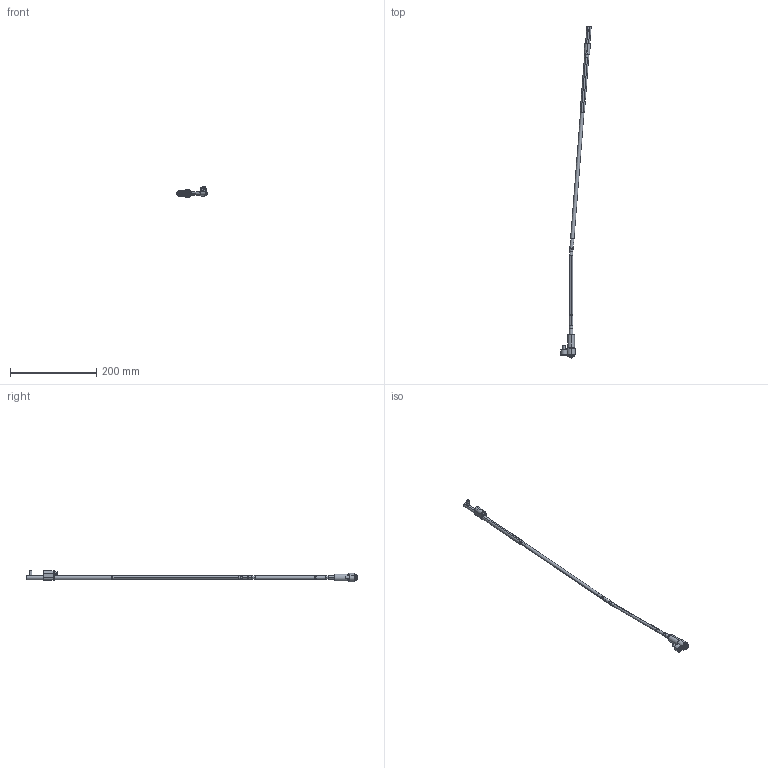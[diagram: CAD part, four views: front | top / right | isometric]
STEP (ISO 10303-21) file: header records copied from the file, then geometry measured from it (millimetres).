
FILE_DESCRIPTION (( 'STEP AP214' ), '1' );
FILE_NAME ('WL080125-INJ 4,5°.STEP', '2021-03-19T15:31:19', ( '' ), ( '' ), 'SwSTEP 2.0', 'SolidWorks 2019', '' );
FILE_SCHEMA (( 'AUTOMOTIVE_DESIGN' ));
Length unit declared in the file: millimetre
Products named in the file (17): WL080100-D; WL080125-INJ 4,5°; 1DIN912545_DIN 912 M5 x 50 --- 50C; WL080100-E; 1DIN912616_DIN 912 M6 x 16 --- 16C; Web-WL08-F01; Web-WL08-F00.SLDPRT; WL080100-B_WL0800FF; WL080100-C; Web-WL08XX-A7_OFF-WL080125-4,5; Web-WL08-A2; WL080100-B1_WL0800FF-1; Web-WL08-A3; Web-WP08-1; 3IMAN4X2-150_con sello; 9DR2206-TOR; Web-WL08-A1
Assembly tree (16 placements, depth 3):
  WL080125-INJ 4,5°
    Web-WP08-1
    Web-WL08XX-A7_OFF-WL080125-4,5
    Web-WL08-A3
    Web-WL08-A2
    Web-WL08-A1
    WL080100-D
    WL080100-C
    WL080100-B_WL0800FF
      WL080100-B1_WL0800FF-1
      3IMAN4X2-150_con sello
    WL080100-E
    9DR2206-TOR
    Web-WL08-F00.SLDPRT
      Web-WL08-F01
      1DIN912545_DIN 912 M5 x 50 --- 50C
      1DIN912616_DIN 912 M6 x 16 --- 16C
Bounding box: 70.39 x 770.74 x 26.9 mm (x, y, z)
Volume: 58701.7 mm3; surface area: 34416 mm2
Topology: 15 solids, 15 shells, 424 faces, 888 edges, 516 vertices
Faces by surface type: plane 132, cylinder 128, cone 116, torus 48
Entity records: 13492 total; most frequent: DIRECTION 2218, CARTESIAN_POINT 2045, ORIENTED_EDGE 1756, AXIS2_PLACEMENT_3D 921, EDGE_CURVE 878, VERTEX_POINT 516, CIRCLE 476, EDGE_LOOP 468
